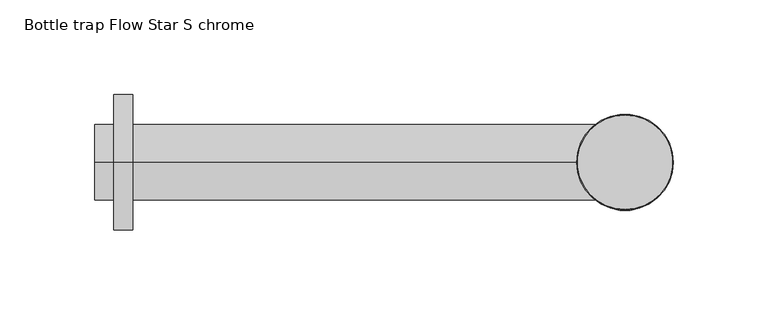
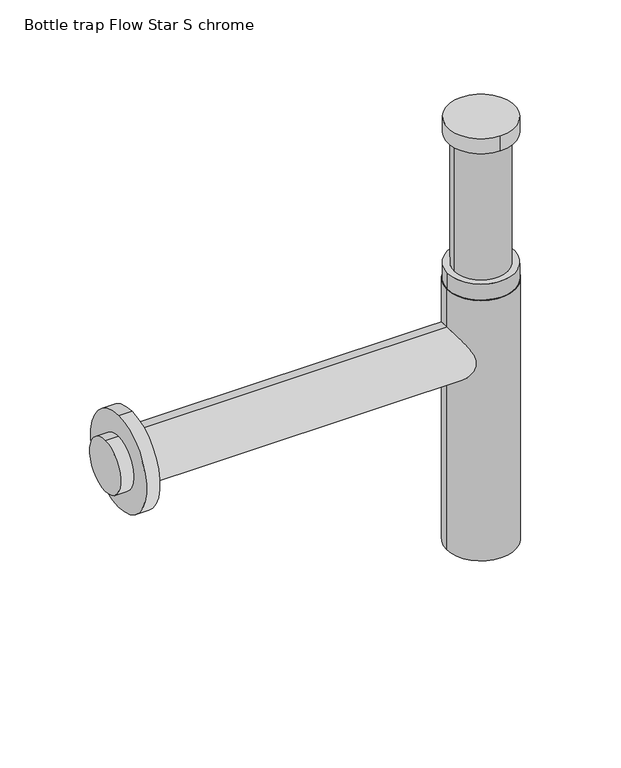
"""IFC4 building model written with IfcOpenShell, lengths in millimetres: flow terminal geometry, GF_SIFON-VESILUKKO FLOWSTAR S KROMI : Bottle trap Flow Star S chrome."""

from ifc_helpers import new_model, si_unit, point, frame, frame_2d, origin, origin_with_axes, origin_2d, place, context, project, spatial, circle_curve, trimmed, segment, composite_curve, outline, extrude, source, transform, mapped, element, save


def bottle_trap_flow_star_s_chrome_f36f63c9(model_context):
    return source(origin(), model_context, "Body", "SweptSolid", [
        extrude(outline(composite_curve([segment(trimmed(circle_curve(origin_2d(), 25.0), [point((0.0, 25.0))], [point((0.0, -25.0))], False, "CARTESIAN"), True, "CONTINUOUS"), segment(trimmed(circle_curve(origin_2d(), 25.0), [point((0.0, -25.0))], [point((0.0, 25.0))], False, "CARTESIAN"), True, "CONTINUOUS")], self_intersect=False)), frame((0.0, 0.0, 320.0), z_axis=(0.0, 0.0, 1.0), x_axis=(1.0, 0.0, 0.0)), (0.0, 0.0, 1.0), 12.0),
        extrude(outline(composite_curve([segment(trimmed(circle_curve(origin_2d(), 20.0), [point((20.0, 0.0))], [point((-20.0, 0.0))], False, "CARTESIAN"), True, "CONTINUOUS"), segment(trimmed(circle_curve(origin_2d(), 20.0), [point((-20.0, 0.0))], [point((20.0, 0.0))], False, "CARTESIAN"), True, "CONTINUOUS")], self_intersect=False)), frame((0.0, 0.0, 155.0), z_axis=(0.0, 0.0, 1.0), x_axis=(1.0, 0.0, 0.0)), (0.0, 0.0, 1.0), 165.0),
        extrude(outline(composite_curve([segment(trimmed(circle_curve(frame_2d((0.0, 155.0)), 36.0), [point((0.0, 119.0))], [point((0.0, 191.0))], False, "CARTESIAN"), True, "CONTINUOUS"), segment(trimmed(circle_curve(frame_2d((0.0, 155.0)), 36.0), [point((0.0, 191.0))], [point((0.0, 119.0))], False, "CARTESIAN"), True, "CONTINUOUS")], self_intersect=False)), frame((-270.0, 0.0, 0.0), z_axis=(1.0, 0.0, 0.0), x_axis=(0.0, 1.0, 0.0)), (0.0, 0.0, 1.0), 10.0),
        extrude(outline(composite_curve([segment(trimmed(circle_curve(frame_2d((0.0, 155.0)), 20.0), [point((0.0, 135.0))], [point((0.0, 175.0))], False, "CARTESIAN"), True, "CONTINUOUS"), segment(trimmed(circle_curve(frame_2d((0.0, 155.0)), 20.0), [point((0.0, 175.0))], [point((0.0, 135.0))], False, "CARTESIAN"), True, "CONTINUOUS")], self_intersect=False)), frame((-280.0, 0.0, 0.0), z_axis=(1.0, 0.0, 0.0), x_axis=(0.0, 1.0, 0.0)), (0.0, 0.0, 1.0), 280.0),
        extrude(outline(composite_curve([segment(trimmed(circle_curve(origin_2d(), 25.0), [point((25.0, 0.0))], [point((-25.0, 0.0))], False, "CARTESIAN"), True, "CONTINUOUS"), segment(trimmed(circle_curve(origin_2d(), 25.0), [point((-25.0, 0.0))], [point((25.0, 0.0))], False, "CARTESIAN"), True, "CONTINUOUS")], self_intersect=False)), frame((0.0, 0.0, 205.0), z_axis=(0.0, 0.0, 1.0), x_axis=(1.0, 0.0, 0.0)), (0.0, 0.0, 1.0), 12.5),
        extrude(outline(composite_curve([segment(trimmed(circle_curve(origin_2d(), 25.5), [point((25.5, 0.0))], [point((-25.5, 0.0))], False, "CARTESIAN"), True, "CONTINUOUS"), segment(trimmed(circle_curve(origin_2d(), 25.5), [point((-25.5, 0.0))], [point((25.5, 0.0))], False, "CARTESIAN"), True, "CONTINUOUS")], self_intersect=False)), origin_with_axes(), (0.0, 0.0, 1.0), 205.0),
    ])


if __name__ == "__main__":
    model = new_model("IFC4")
    model_context = context("Model", 3, world=origin())
    ifc_project = project(units=[si_unit("LENGTHUNIT", "METRE", prefix="MILLI")], contexts=[model_context])
    site = spatial("IfcSite", under=ifc_project)
    building = spatial("IfcBuilding", under=site)
    placement = place(None, origin())
    bottle_trap_flow_star_s_chrome_shape = bottle_trap_flow_star_s_chrome_f36f63c9(model_context)
    element("IfcFlowTerminal", 1, ObjectType="GF_SIFON-VESILUKKO FLOWSTAR S KROMI : Bottle trap Flow Star S chrome", at=placement, inside=building, context=model_context, shape_type="MappedRepresentation", body=[
        mapped(bottle_trap_flow_star_s_chrome_shape, transform((0.0, 0.0, 0.0), x_axis=(1.0, 0.0, 0.0), y_axis=(0.0, 1.0, 0.0), z_axis=(0.0, 0.0, 1.0))),
    ])
    save(model, "model.ifc")
